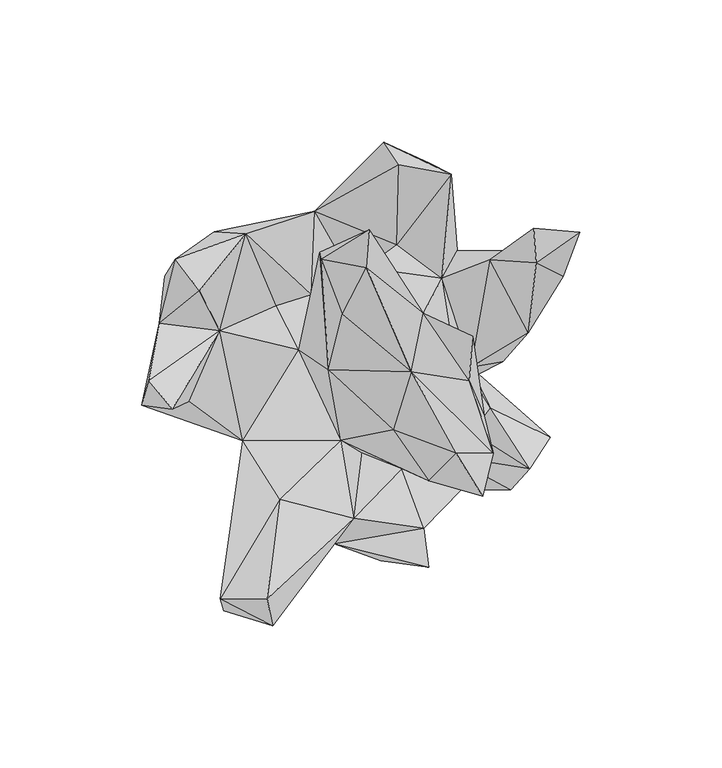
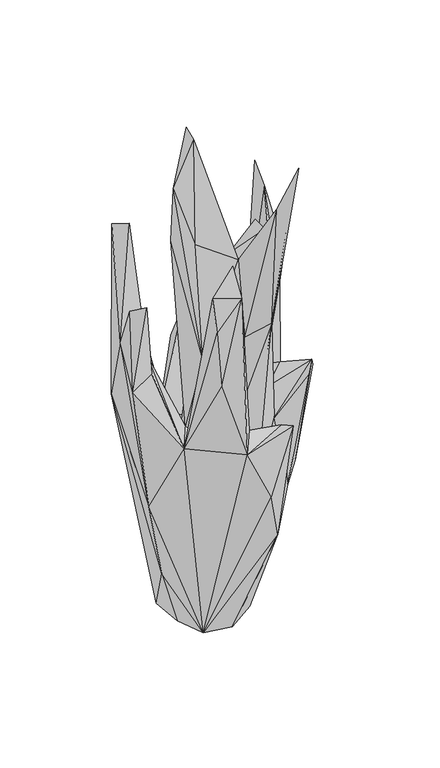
"""IFC4 building model written with IfcOpenShell, lengths in millimetres: geographic element geometry, Enscape AssetDefinition - Potted Plant 247 Snake Plant : Enscape AssetDefinition - Potted Plant 247 Snake Plant."""

import ifcopenshell
import ifcopenshell.guid

model = None  # the IFC model being written
_history = None  # IfcOwnerHistory: only IFC2X3 demands one
_inside = {}  # id of a spatial element -> (the spatial element, [elements in it])
_under = {}  # id of a project, library or spatial element -> (it, [spatial elements below it])
_declared = {}  # id of a project -> (the project, [libraries it declares])
_typed = {}  # id of a type object -> (the type object, [elements of that type])
_made_of = {}  # id of a material, layer set ... -> (it, [elements and type objects made of it])


def new_model(schema):
    """Start an empty IFC model of exactly this schema.

    Asked for "IFC4X3", IfcOpenShell would pick the latest addendum, in which some entities
    have other attributes; the version numbers below select the first issue.
    IFC2X3 requires an IfcOwnerHistory on every rooted entity: one is made here for all.
    """
    global model, _history
    if schema == "IFC4X3":
        model = ifcopenshell.file(schema_version=(4, 3, 0, 0))
    else:
        model = ifcopenshell.file(schema=schema)
    _inside.clear()
    _under.clear()
    _declared.clear()
    _typed.clear()
    _made_of.clear()
    _history = None
    if model.schema == "IFC2X3":
        org = make("IfcOrganization", Name="unknown")
        user = make(
            "IfcPersonAndOrganization",
            ThePerson=make("IfcPerson", FamilyName="unknown"),
            TheOrganization=org,
        )
        app = make(
            "IfcApplication",
            ApplicationDeveloper=org,
            Version="unknown",
            ApplicationFullName="unknown",
            ApplicationIdentifier="unknown",
        )
        _history = make(
            "IfcOwnerHistory",
            OwningUser=user,
            OwningApplication=app,
            ChangeAction="ADDED",
            CreationDate=0,
        )
    return model


def make(cls, **values):
    """One entity of the class cls with the attributes given. An attribute that is None is left unset."""
    return model.create_entity(
        cls, **{name: value for name, value in values.items() if value is not None}
    )


def rooted(cls, **values):
    """An entity with a GlobalId (a new one), such as an element, a storey or a relation."""
    return make(cls, GlobalId=ifcopenshell.guid.new(), OwnerHistory=_history, **values)


def si_unit(unit_type, name, prefix=None):
    """IfcSIUnit, for example si_unit("LENGTHUNIT", "METRE", prefix="MILLI")."""
    return make("IfcSIUnit", UnitType=unit_type, Prefix=prefix, Name=name)


def assignment(units):
    """IfcUnitAssignment: the units of a project."""
    return None if units is None else make("IfcUnitAssignment", Units=units)


def point(xyz):
    """IfcCartesianPoint."""
    return None if xyz is None else make("IfcCartesianPoint", Coordinates=xyz)


def direction(xyz):
    """IfcDirection."""
    return None if xyz is None else make("IfcDirection", DirectionRatios=xyz)


def frame(location, z_axis=None, x_axis=None):
    """IfcAxis2Placement3D, a coordinate frame: its origin and axes. An axis left out is left unset."""
    return make(
        "IfcAxis2Placement3D",
        Location=point(location),
        Axis=direction(z_axis),
        RefDirection=direction(x_axis),
    )


def origin():
    """The frame at (0, 0, 0) with its axes left unset."""
    return frame((0.0, 0.0, 0.0))


def place(relative_to, where):
    """IfcLocalPlacement: puts the frame where relative to a parent placement (None: the world)."""
    return make(
        "IfcLocalPlacement", PlacementRelTo=relative_to, RelativePlacement=where
    )


def context(
    kind, dimensions, precision=None, world=None, true_north=None, identifier=None
):
    """IfcGeometricRepresentationContext, for example the 3D "Model" context."""
    return make(
        "IfcGeometricRepresentationContext",
        ContextIdentifier=identifier,
        ContextType=kind,
        CoordinateSpaceDimension=dimensions,
        Precision=precision,
        WorldCoordinateSystem=world,
        TrueNorth=true_north,
    )


def project(units=None, contexts=None):
    """IfcProject with its units and contexts."""
    return rooted(
        "IfcProject",
        Name="project",
        RepresentationContexts=contexts,
        UnitsInContext=assignment(units),
    )


def spatial(cls, under=None, at=None, **own):
    """A site, building, storey or space (cls), placed at a placement, below another one or the project."""
    s = rooted(cls, ObjectPlacement=at, **own)
    if under is not None:
        _under.setdefault(under.id(), (under, []))[1].append(s)
    return s


def point_list(points):
    """IfcCartesianPointList2D or 3D."""
    cls = (
        "IfcCartesianPointList2D" if len(points[0]) == 2 else "IfcCartesianPointList3D"
    )
    return make(cls, CoordList=points)


def triangles(points, corners, closed=None, point_numbers=None):
    """IfcTriangulatedFaceSet: each triangle names its three corners, points numbered from 1."""
    return make(
        "IfcTriangulatedFaceSet",
        Coordinates=point_list(points),
        Closed=closed,
        CoordIndex=corners,
        PnIndex=point_numbers,
    )


def shape(context_of_items, identifier, shape_type, items):
    """IfcShapeRepresentation: the items that make up one representation, for example the "Body"."""
    return make(
        "IfcShapeRepresentation",
        ContextOfItems=context_of_items,
        RepresentationIdentifier=identifier,
        RepresentationType=shape_type,
        Items=items,
    )


def source(mapping_origin, context_of_items, identifier, shape_type, items):
    """IfcRepresentationMap: a shape defined once, which mapped items show again and again."""
    return make(
        "IfcRepresentationMap",
        MappingOrigin=mapping_origin,
        MappedRepresentation=shape(context_of_items, identifier, shape_type, items),
    )


def transform(
    local_origin,
    x_axis=None,
    y_axis=None,
    z_axis=None,
    scale=None,
    scale2=None,
    scale3=None,
    uniform=True,
):
    """IfcCartesianTransformationOperator3D, or its non-uniform kind. x_axis, y_axis, z_axis: its Axis1, 2, 3."""
    if uniform:
        return make(
            "IfcCartesianTransformationOperator3D",
            Axis1=direction(x_axis),
            Axis2=direction(y_axis),
            LocalOrigin=point(local_origin),
            Scale=scale,
            Axis3=direction(z_axis),
        )
    return make(
        "IfcCartesianTransformationOperator3DnonUniform",
        Axis1=direction(x_axis),
        Axis2=direction(y_axis),
        LocalOrigin=point(local_origin),
        Scale=scale,
        Axis3=direction(z_axis),
        Scale2=scale2,
        Scale3=scale3,
    )


def mapped(mapping_source, mapping_target):
    """IfcMappedItem: shows the shape of a source again, moved by a transform."""
    return make(
        "IfcMappedItem", MappingSource=mapping_source, MappingTarget=mapping_target
    )


def made_of(thing, what):
    """Note that an element or type object is made of a material, layer set ...; save() writes the relation."""
    if what is not None:
        _made_of.setdefault(what.id(), (what, []))[1].append(thing)
    return thing


def element(
    cls,
    number,
    at=None,
    inside=None,
    cuts=None,
    type_object=None,
    material=None,
    context=None,
    identifier="Body",
    shape_type=None,
    held_by="IfcProductDefinitionShape",
    body=None,
    shapes=None,
    **own,
):
    """One element of the class cls, such as IfcWall. Its Tag is "e" and its number.

    at: its placement. inside: the storey or other place that contains it. cuts: it is an
    opening in that element (IfcRelVoidsElement). A single representation is given by context,
    identifier, shape_type and body (its items); several are given by shapes. held_by: the class
    of the entity that holds the representations. save() writes the other relations.
    """
    e = rooted(cls, Tag="e%d" % number, ObjectPlacement=at, **own)
    if body is not None:
        shapes = [shape(context, identifier, shape_type, body)]
    if shapes is not None:
        e.Representation = make(held_by, Representations=shapes)
    if inside is not None:
        _inside.setdefault(inside.id(), (inside, []))[1].append(e)
    if cuts is not None:
        rooted(
            "IfcRelVoidsElement", RelatingBuildingElement=cuts, RelatedOpeningElement=e
        )
    if type_object is not None:
        _typed.setdefault(type_object.id(), (type_object, []))[1].append(e)
    return made_of(e, material)


def aggregate(whole, parts):
    """IfcRelAggregates: a whole, such as a stair, and the parts it consists of."""
    return rooted("IfcRelAggregates", RelatingObject=whole, RelatedObjects=parts)


def save(model, path):
    """Write the relations noted so far, then the file.

    IfcRelAggregates (storeys below a building ...), IfcRelContainedInSpatialStructure (elements
    in a storey), IfcRelDefinesByType, IfcRelAssociatesMaterial and IfcRelDeclares: one each for
    every whole, place, type object, material and project.
    """
    for whole, parts in _under.values():
        aggregate(whole, parts)
    for where, things in _inside.values():
        rooted(
            "IfcRelContainedInSpatialStructure",
            RelatedElements=things,
            RelatingStructure=where,
        )
    for kind, things in _typed.values():
        rooted("IfcRelDefinesByType", RelatedObjects=things, RelatingType=kind)
    for what, things in _made_of.values():
        rooted("IfcRelAssociatesMaterial", RelatedObjects=things, RelatingMaterial=what)
    for by, libraries in _declared.values():
        rooted("IfcRelDeclares", RelatingContext=by, RelatedDefinitions=libraries)
    model.write(path)


def geographic_element_9168ae05(model_context):
    return source(origin(), model_context, "Body", "Tessellation", [
        triangles([(-68.1864085, 28.2287775, 192.6670371), (-56.1002367, 23.0802409, 342.1752986), (-73.8677704, -8.5440847, 289.6986144), (-70.1396868, 11.631864, 248.2722367), (-39.6918541, 43.2263813, 256.1646874), (-64.5141626, 34.1822204, 337.9026306), (-50.7774557, 43.9074171, 205.3708583), (-34.7142056, 21.0858246, 0.0), (-41.5582055, 1.3948328, 40.1394422), (-23.9355326, -28.5373887, 0.0), (-57.4866755, -7.4473658, 110.4831908), (-76.2531036, -17.2053168, 223.6737382), (-65.6826823, -18.5871342, 296.2852218), (-59.6809547, -15.773114, 233.5248811), (-40.719712, -29.6823952, 169.4205454), (-48.9430109, 9.0802682, 230.9052917), (-21.070707, 2.2753158, 163.025387), (-29.0513199, 17.9056715, 160.9788913), (-2.1674074, 28.0339561, 101.0321598), (-16.6002733, 21.6530774, 127.5113121), (13.5015787, 39.3597296, 142.6029599), (-15.4661844, 51.1444254, 137.8260168), (29.3200399, 27.5120471, 130.7724956), (2.4671996, 31.2875842, 219.3506736), (14.200254, 67.4776581, 217.1437952), (8.878307, 75.4565861, 188.6017874), (25.0708807, 68.067584, 138.7182497), (32.6983766, 64.1165397, 172.9697655), (34.734778, 37.3846253, 82.6721794), (-12.9910073, 33.063248, 0.0), (59.8564618, 19.5385762, 136.9333659), (25.9937713, 5.1817076, 0.0), (19.6343075, 22.8287346, 0.0), (-32.8604465, -5.9861921, 0.0), (-1.7420714, -32.2784962, 0.0), (22.0339067, -16.5402309, 0.0), (22.8929749, -60.521969, 186.9537775), (20.6583888, -59.253519, 90.2883388), (7.8202173, -72.0173747, 135.7316588), (24.7828441, -74.2796775, 193.7431887), (24.7429574, -43.7705387, 266.0540729), (-1.7534082, -56.9685521, 188.6198459), (1.0929409, -33.971021, 107.0872135), (15.2709429, -39.53104, 128.3397317), (-32.0719159, -85.3917264, 361.6387181), (-8.6314192, -65.9325126, 174.902024), (-30.2706428, -94.9191699, 338.2439979), (-48.7057798, -85.4022272, 338.8125315), (-27.7984054, -50.3600983, 249.568433), (-47.5242476, -89.6232541, 310.7726732), (-37.5672723, -78.8172821, 252.7733428), (-6.2192243, -29.4993258, 156.8640989), (-13.7026985, 36.669991, 303.8052388), (3.819205, 44.5712438, 393.3121845), (-13.0527291, 34.1297345, 350.8310929), (2.6557245, 31.2220836, 390.4196649), (-5.6931175, 14.8304901, 310.7134835), (18.5249912, -5.4852785, 301.0890528), (-10.6434728, -4.7173225, 222.5875218), (12.2146535, -25.9051752, 247.2276057), (47.4306123, -34.0680127, 366.9010423), (34.4286898, -34.1234395, 357.669193), (39.0494379, -8.5453456, 323.389999), (43.7835557, -49.296128, 400.0000031), (44.3596288, -20.8603478, 282.6387982), (40.1931862, 7.0346264, 321.7008579), (31.290943, -23.5148142, 215.6620543), (31.4794716, -35.0404484, 174.9205004), (33.4864825, -22.4831753, 194.1404028), (53.5994491, -46.9960368, 212.5889678), (50.3521182, -33.1677952, 130.0499017), (46.4388624, -18.0782422, 208.566539), (67.4512017, -28.5231136, 205.684938), (60.2755042, -39.612494, 219.2675391), (36.2106486, -46.902406, 121.3000633), (59.8098531, 8.2358953, 185.4615357), (39.5142442, -3.7910732, 124.1926102), (50.7816523, -1.893647, 85.1339205), (60.0357523, 37.2271722, 161.5394312), (72.0177925, 28.1788123, 247.8947888), (77.8524064, 43.7277134, 284.8419159), (61.6783119, 45.1355626, 343.1888995), (62.5109328, 32.8826972, 328.2710964), (46.1298333, 34.0499611, 204.7276018), (32.979271, 3.9640627, 202.3473146), (22.7955653, 15.1164261, 293.3166893)], [[85, 86, 66], [86, 85, 23], [23, 84, 79], [84, 82, 81], [81, 79, 84], [82, 83, 81], [82, 84, 83], [80, 79, 81], [80, 81, 83], [31, 79, 80], [83, 76, 80], [84, 76, 83], [76, 31, 80], [31, 76, 78], [78, 32, 31], [78, 36, 32], [78, 77, 36], [77, 78, 76], [84, 23, 77], [77, 76, 84], [77, 23, 85], [72, 77, 85], [72, 73, 77], [73, 71, 77], [77, 71, 36], [75, 36, 71], [74, 75, 71], [72, 74, 73], [73, 74, 71], [70, 75, 74], [69, 74, 72], [68, 70, 74], [75, 70, 68], [68, 74, 69], [67, 69, 72], [68, 69, 67], [41, 68, 67], [66, 65, 85], [85, 65, 72], [65, 41, 67], [72, 65, 67], [86, 63, 66], [63, 65, 66], [61, 64, 41], [63, 61, 65], [61, 41, 65], [41, 64, 62], [62, 64, 61], [52, 41, 60], [41, 62, 60], [59, 52, 60], [58, 63, 86], [63, 58, 61], [59, 60, 58], [58, 62, 61], [60, 62, 58], [58, 57, 59], [56, 58, 86], [57, 58, 56], [59, 57, 55], [55, 57, 56], [55, 56, 54], [56, 86, 54], [53, 55, 54], [53, 59, 55], [53, 54, 24], [54, 86, 24], [86, 23, 24], [17, 59, 53], [24, 17, 53], [17, 52, 59], [52, 17, 15], [46, 51, 15], [15, 51, 50], [50, 48, 15], [49, 52, 15], [15, 48, 49], [48, 45, 49], [48, 47, 45], [48, 50, 47], [46, 47, 51], [47, 50, 51], [42, 47, 46], [49, 42, 52], [45, 42, 49], [47, 42, 45], [42, 43, 52], [44, 75, 68], [44, 68, 41], [43, 44, 52], [42, 44, 43], [41, 52, 44], [37, 75, 44], [37, 42, 46], [44, 42, 37], [46, 40, 37], [46, 39, 40], [75, 38, 36], [37, 38, 75], [39, 38, 40], [40, 38, 37], [38, 35, 36], [36, 35, 10], [10, 38, 39], [10, 39, 46], [38, 10, 35], [10, 46, 15], [36, 10, 8], [10, 34, 8], [33, 32, 36], [8, 33, 36], [79, 31, 29], [29, 23, 79], [32, 33, 29], [31, 32, 29], [23, 29, 28], [28, 29, 27], [8, 30, 33], [29, 30, 27], [30, 29, 33], [28, 27, 26], [27, 30, 26], [25, 28, 26], [21, 28, 25], [21, 23, 28], [23, 21, 24], [22, 21, 25], [30, 22, 26], [22, 25, 26], [19, 24, 21], [22, 19, 21], [20, 19, 22], [24, 20, 17], [19, 20, 24], [17, 20, 18], [16, 17, 18], [15, 17, 16], [14, 15, 16], [16, 13, 14], [3, 13, 16], [12, 15, 14], [13, 12, 14], [3, 12, 13], [15, 11, 10], [15, 12, 11], [34, 9, 8], [9, 10, 11], [34, 10, 9], [1, 9, 11], [9, 1, 8], [7, 30, 8], [8, 1, 7], [30, 7, 22], [5, 18, 20], [5, 20, 22], [22, 7, 5], [18, 5, 16], [2, 16, 5], [7, 1, 6], [6, 2, 5], [5, 7, 6], [16, 4, 3], [3, 4, 12], [12, 4, 11], [4, 16, 2], [6, 4, 2], [4, 6, 1], [4, 1, 11]]),
    ])


if __name__ == "__main__":
    model = new_model("IFC4")
    model_context = context("Model", 3, world=origin())
    ifc_project = project(units=[si_unit("LENGTHUNIT", "METRE", prefix="MILLI")], contexts=[model_context])
    site = spatial("IfcSite", under=ifc_project)
    building = spatial("IfcBuilding", under=site)
    placement = place(None, origin())
    geographic_element_shape = geographic_element_9168ae05(model_context)
    element("IfcGeographicElement", 1, ObjectType="Enscape AssetDefinition - Potted Plant 247 Snake Plant : Enscape AssetDefinition - Potted Plant 247 Snake Plant", at=placement, inside=building, context=model_context, shape_type="MappedRepresentation", body=[
        mapped(geographic_element_shape, transform((0.0, 0.0, 0.0), x_axis=(1.0, 0.0, 0.0), y_axis=(0.0, 1.0, 0.0), z_axis=(0.0, 0.0, 1.0))),
    ])
    save(model, "model.ifc")
